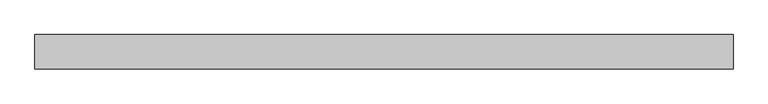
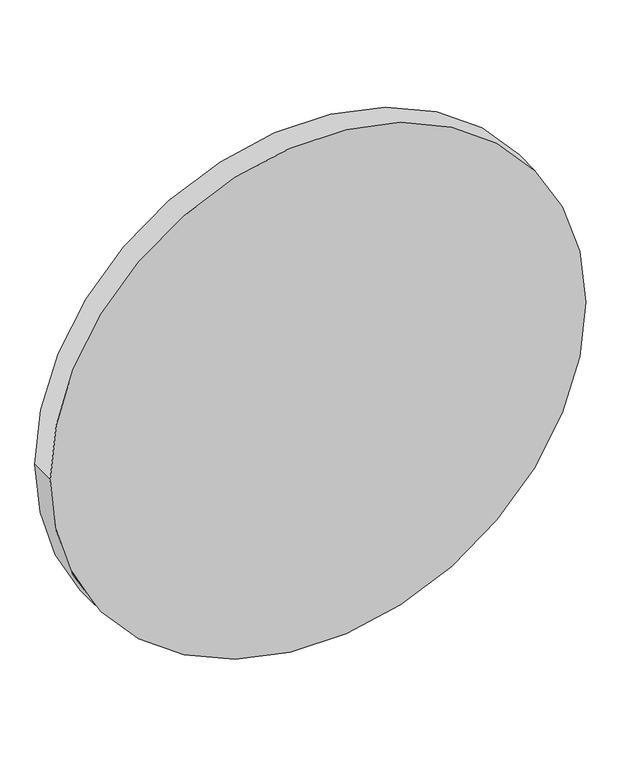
"""IFC4 building model written with IfcOpenShell, lengths in millimetres: proxy geometry, LFLO-MEXX-092."""

from ifc_helpers import new_model, si_unit, point, frame, origin, origin_2d, place, context, project, spatial, circle_curve, trimmed, segment, composite_curve, outline, extrude, source, transform, mapped, element, save


def generic_models_1101f476(model_context):
    return source(origin(), model_context, "Body", "SweptSolid", [
        extrude(outline(composite_curve([segment(trimmed(circle_curve(origin_2d(), 627.0), [point((0.0, 627.0))], [point((0.0, -627.0))], False, "CARTESIAN"), True, "CONTINUOUS"), segment(trimmed(circle_curve(origin_2d(), 627.0), [point((0.0, -627.0))], [point((0.0, 627.0))], False, "CARTESIAN"), True, "CONTINUOUS")], self_intersect=False)), frame((0.0, -60.0, 0.0), z_axis=(0.0, 1.0, 0.0), x_axis=(0.0, 0.0, 1.0)), (0.0, 0.0, 1.0), 62.0),
    ])


if __name__ == "__main__":
    model = new_model("IFC4")
    model_context = context("Model", 3, world=origin())
    ifc_project = project(units=[si_unit("LENGTHUNIT", "METRE", prefix="MILLI")], contexts=[model_context])
    site = spatial("IfcSite", under=ifc_project)
    building = spatial("IfcBuilding", under=site)
    placement = place(None, origin())
    generic_models_shape = generic_models_1101f476(model_context)
    element("IfcBuildingElementProxy", 1, Name="LFLO-MEXX-092", ObjectType="LFLO-MEXX-092", at=placement, inside=building, context=model_context, shape_type="MappedRepresentation", body=[
        mapped(generic_models_shape, transform((0.0, 0.0, 0.0), x_axis=(1.0, 0.0, 0.0), y_axis=(0.0, 1.0, 0.0), z_axis=(0.0, 0.0, 1.0))),
    ])
    save(model, "model.ifc")
